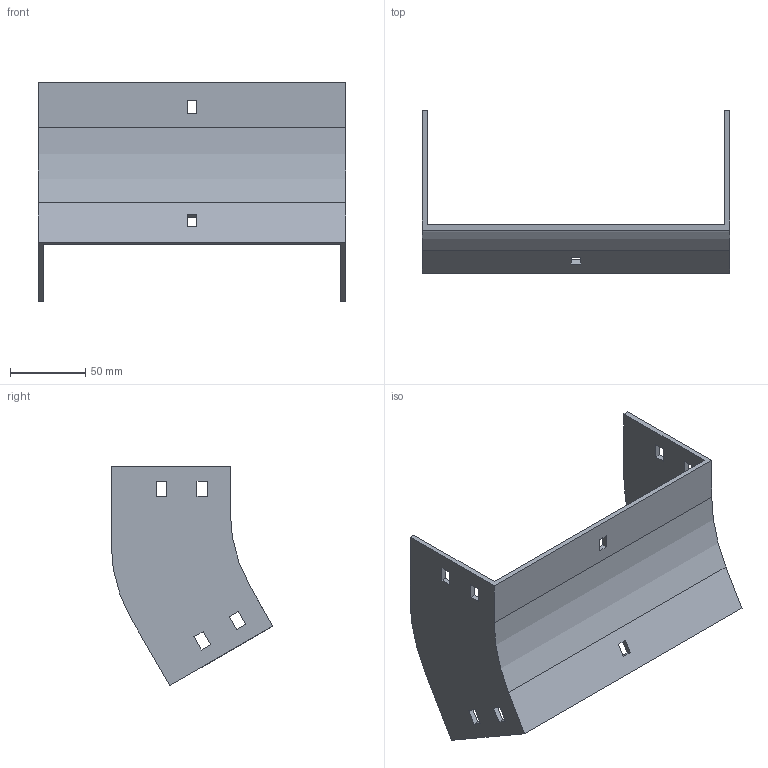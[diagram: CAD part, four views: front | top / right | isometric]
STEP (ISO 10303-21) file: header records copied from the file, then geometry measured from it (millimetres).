
FILE_DESCRIPTION (( 'STEP AP214' ), '1' );
FILE_NAME ('35F1C200.step', '2025-02-21T12:49:56', ( '' ), ( '' ), 'SwSTEP 2.0', 'SolidWorks 2023', '' );
FILE_SCHEMA (( 'AUTOMOTIVE_DESIGN' ));
Length unit declared in the file: millimetre
Products named in the file (1): 35F1C200
Bounding box: 204 x 107.4 x 145.48 mm (x, y, z)
Volume: 150255.5 mm3; surface area: 90590.7 mm2
Topology: 1 solids, 1 shells, 58 faces, 168 edges, 112 vertices
Faces by surface type: plane 54, cylinder 4
Entity records: 1943 total; most frequent: CARTESIAN_POINT 339, ORIENTED_EDGE 336, DIRECTION 294, EDGE_CURVE 168, LINE 160, VECTOR 160, VERTEX_POINT 112, EDGE_LOOP 78
